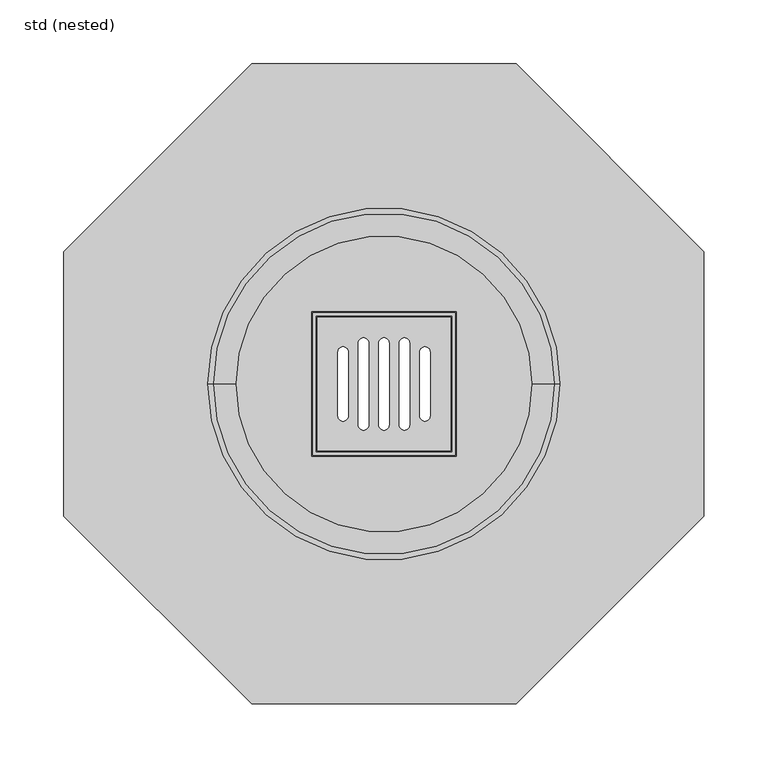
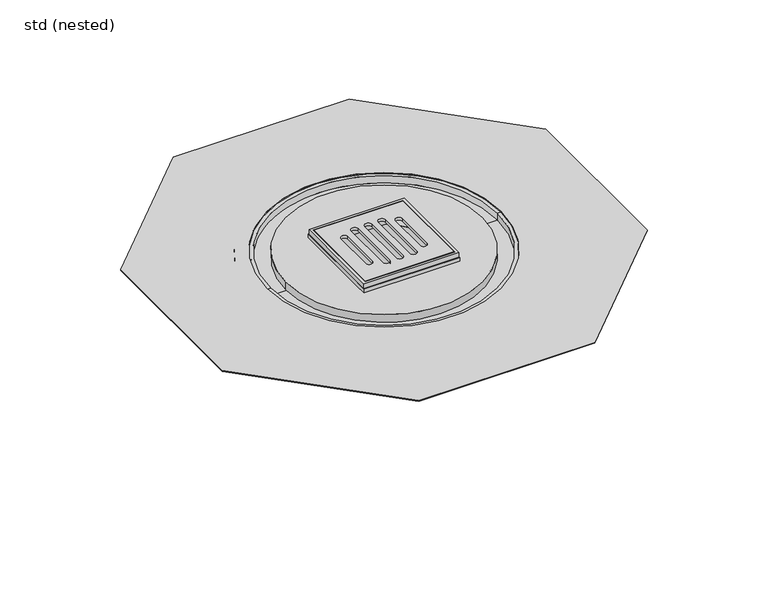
"""IFC4 building model written with IfcOpenShell, lengths in millimetres: sanitary terminal geometry, ZZZ_do_not_use_PF_GEN_UN_composite sealing top section Passavant_ACO : std (nested)."""

from ifc_helpers import new_model, si_unit, point, frame, frame_2d, origin, origin_with_axes, origin_2d, place, context, project, spatial, polyline, circle_curve, trimmed, segment, composite_curve, outline, extrude, faceted_brep, source, transform, mapped, element, save
from ifc_brep_helpers import plane_surface, cylinder_surface, revolved_surface, advanced_brep


def std_nested_0576af5b(model_context):
    return source(origin(), model_context, "Body", "SolidModel", [
        extrude(outline(polyline([(52.0, 52.0), (52.0, -52.0), (-52.0, -52.0), (-52.0, 52.0), (52.0, 52.0)]), holes=[composite_curve([segment(polyline([(-4.0, 32.0), (-4.0, -32.0)]), True, "CONTINUOUS"), segment(trimmed(circle_curve(frame_2d((0.0, -32.0)), 4.0), [point((-4.0, -32.0))], [point((4.0, -32.0))], True, "CARTESIAN"), True, "CONTINUOUS"), segment(polyline([(4.0, -32.0), (4.0, 32.0)]), True, "CONTINUOUS"), segment(trimmed(circle_curve(frame_2d((0.0, 32.0)), 4.0), [point((4.0, 32.0))], [point((-4.0, 32.0))], True, "CARTESIAN"), True, "CONTINUOUS")], self_intersect=False), composite_curve([segment(polyline([(12.0, 32.0), (12.0, -32.0)]), True, "CONTINUOUS"), segment(trimmed(circle_curve(frame_2d((16.0, -32.0)), 4.0), [point((12.0, -32.0))], [point((20.0, -32.0))], True, "CARTESIAN"), True, "CONTINUOUS"), segment(polyline([(20.0, -32.0), (20.0, 32.0)]), True, "CONTINUOUS"), segment(trimmed(circle_curve(frame_2d((16.0, 32.0)), 4.0), [point((20.0, 32.0))], [point((12.0, 32.0))], True, "CARTESIAN"), True, "CONTINUOUS")], self_intersect=False), composite_curve([segment(trimmed(circle_curve(frame_2d((-16.0, 32.0)), 4.0), [point((-12.0, 32.0))], [point((-20.0, 32.0))], True, "CARTESIAN"), True, "CONTINUOUS"), segment(polyline([(-20.0, 32.0), (-20.0, -32.0)]), True, "CONTINUOUS"), segment(trimmed(circle_curve(frame_2d((-16.0, -32.0)), 4.0), [point((-20.0, -32.0))], [point((-12.0, -32.0))], True, "CARTESIAN"), True, "CONTINUOUS"), segment(polyline([(-12.0, -32.0), (-12.0, 32.0)]), True, "CONTINUOUS")], self_intersect=False), composite_curve([segment(trimmed(circle_curve(frame_2d((-32.0, 25.0)), 4.0), [point((-28.0, 25.0))], [point((-36.0, 25.0))], True, "CARTESIAN"), True, "CONTINUOUS"), segment(polyline([(-36.0, 25.0), (-36.0, -25.0)]), True, "CONTINUOUS"), segment(trimmed(circle_curve(frame_2d((-32.0, -25.0)), 4.0), [point((-36.0, -25.0))], [point((-28.0, -25.0))], True, "CARTESIAN"), True, "CONTINUOUS"), segment(polyline([(-28.0, -25.0), (-28.0, 25.0)]), True, "CONTINUOUS")], self_intersect=False), composite_curve([segment(polyline([(28.0, 25.0), (28.0, -25.0)]), True, "CONTINUOUS"), segment(trimmed(circle_curve(frame_2d((32.0, -25.0)), 4.0), [point((28.0, -25.0))], [point((36.0, -25.0))], True, "CARTESIAN"), True, "CONTINUOUS"), segment(polyline([(36.0, -25.0), (36.0, 25.0)]), True, "CONTINUOUS"), segment(trimmed(circle_curve(frame_2d((32.0, 25.0)), 4.0), [point((36.0, 25.0))], [point((28.0, 25.0))], True, "CARTESIAN"), True, "CONTINUOUS")], self_intersect=False)]), frame((0.0, 0.0, 9.0), z_axis=(0.0, 0.0, 1.0), x_axis=(1.0, 0.0, 0.0)), (0.0, 0.0, 1.0), 3.0),
        faceted_brep([(51.95, 51.95, 9.0), (51.95, 51.95, 6.0), (51.95, -51.95, 6.0), (51.95, -51.95, 9.0), (52.75, 52.75, 12.0), (52.75, 52.75, 9.0), (52.75, -52.75, 9.0), (52.75, -52.75, 12.0), (55.75, 55.75, 6.0), (55.75, 55.75, 12.0), (55.75, -55.75, 12.0), (55.75, -55.75, 6.0), (-51.95, -51.95, 6.0), (-51.95, -51.95, 9.0), (-52.75, -52.75, 9.0), (-52.75, -52.75, 12.0), (-55.75, -55.75, 12.0), (-55.75, -55.75, 6.0), (-51.95, 51.95, 6.0), (-51.95, 51.95, 9.0), (-52.75, 52.75, 9.0), (-52.75, 52.75, 12.0), (-55.75, 55.75, 12.0), (-55.75, 55.75, 6.0)], [[[0, 1, 2, 3]], [[4, 5, 6, 7]], [[8, 9, 10, 11]], [[3, 2, 12, 13]], [[7, 6, 14, 15]], [[11, 10, 16, 17]], [[13, 12, 18, 19]], [[15, 14, 20, 21]], [[17, 16, 22, 23]], [[11, 17, 23, 8], [1, 18, 12, 2]], [[19, 18, 1, 0]], [[5, 20, 14, 6], [3, 13, 19, 0]], [[21, 20, 5, 4]], [[9, 22, 16, 10], [7, 15, 21, 4]], [[23, 22, 9, 8]]]),
        extrude(outline(polyline([(-103.5, 250.0), (103.5, 250.0), (250.0, 103.5), (250.0, -103.5), (103.5, -250.0), (-103.5, -250.0), (-250.0, -103.5), (-250.0, 103.5), (-103.5, 250.0)]), holes=[composite_curve([segment(trimmed(circle_curve(origin_2d(), 137.5), [point((-137.5, 0.0))], [point((137.5, 0.0))], True, "CARTESIAN"), True, "CONTINUOUS"), segment(trimmed(circle_curve(origin_2d(), 137.5), [point((137.5, 0.0))], [point((-137.5, 0.0))], True, "CARTESIAN"), True, "CONTINUOUS")], self_intersect=False)]), origin_with_axes(), (0.0, 0.0, 1.0), 1.0),
        advanced_brep(
        [(153.5, 0.0, -3.0), (-153.5, 0.0, -3.0), (-153.5, 0.0, 0.0), (153.5, 0.0, 0.0), (136.5, 0.0, -3.0), (-136.5, 0.0, -3.0), (-133.5, 0.0, 0.0), (133.5, 0.0, 0.0), (136.5, 0.0, -12.0), (-136.5, 0.0, -12.0), (62.5, 0.0, -12.0), (-62.5, 0.0, -12.0), (62.5, 0.0, -130.0), (-62.5, 0.0, -130.0), (59.5, 0.0, -130.0), (-59.5, 0.0, -130.0), (59.5, 0.0, -9.0), (-59.5, 0.0, -9.0), (133.5, 0.0, -9.0), (-133.5, 0.0, -9.0)],
        [
            (0, 1, circle_curve(frame((0.0, 0.0, -3.0), z_axis=(0.0, 0.0, 1.0), x_axis=(-1.0, 0.0, 0.0)), 153.5)),
            (1, 2),
            (2, 3, circle_curve(frame((0.0, 0.0, 0.0), z_axis=(0.0, 0.0, -1.0), x_axis=(-1.0, 0.0, 0.0)), 153.5)),
            (3, 0),
            (1, 0, circle_curve(frame((0.0, 0.0, -3.0), z_axis=(0.0, 0.0, 1.0), x_axis=(-1.0, 0.0, 0.0)), 153.5)),
            (3, 2, circle_curve(frame((0.0, 0.0, 0.0), z_axis=(0.0, 0.0, -1.0), x_axis=(-1.0, 0.0, 0.0)), 153.5)),
            (4, 5, circle_curve(frame((0.0, 0.0, -3.0), z_axis=(0.0, 0.0, 1.0), x_axis=(-1.0, 0.0, 0.0)), 136.5)),
            (5, 1),
            (0, 4),
            (5, 4, circle_curve(frame((0.0, 0.0, -3.0), z_axis=(0.0, 0.0, 1.0), x_axis=(-1.0, 0.0, 0.0)), 136.5)),
            (2, 6),
            (6, 7, circle_curve(frame((0.0, 0.0, 0.0), z_axis=(0.0, 0.0, -1.0), x_axis=(-1.0, 0.0, 0.0)), 133.5)),
            (7, 3),
            (7, 6, circle_curve(frame((0.0, 0.0, 0.0), z_axis=(0.0, 0.0, -1.0), x_axis=(-1.0, 0.0, 0.0)), 133.5)),
            (8, 9, circle_curve(frame((0.0, 0.0, -12.0), z_axis=(0.0, 0.0, 1.0), x_axis=(-1.0, 0.0, 0.0)), 136.5)),
            (9, 5),
            (4, 8),
            (9, 8, circle_curve(frame((0.0, 0.0, -12.0), z_axis=(0.0, 0.0, 1.0), x_axis=(-1.0, 0.0, 0.0)), 136.5)),
            (10, 11, circle_curve(frame((0.0, 0.0, -12.0), z_axis=(0.0, 0.0, 1.0), x_axis=(-1.0, 0.0, 0.0)), 62.5)),
            (11, 9),
            (8, 10),
            (11, 10, circle_curve(frame((0.0, 0.0, -12.0), z_axis=(0.0, 0.0, 1.0), x_axis=(-1.0, 0.0, 0.0)), 62.5)),
            (12, 13, circle_curve(frame((0.0, 0.0, -130.0), z_axis=(0.0, 0.0, 1.0), x_axis=(-1.0, 0.0, 0.0)), 62.5)),
            (13, 11),
            (10, 12),
            (13, 12, circle_curve(frame((0.0, 0.0, -130.0), z_axis=(0.0, 0.0, 1.0), x_axis=(-1.0, 0.0, 0.0)), 62.5)),
            (14, 15, circle_curve(frame((0.0, 0.0, -130.0), z_axis=(0.0, 0.0, 1.0), x_axis=(-1.0, 0.0, 0.0)), 59.5)),
            (15, 13),
            (12, 14),
            (15, 14, circle_curve(frame((0.0, 0.0, -130.0), z_axis=(0.0, 0.0, 1.0), x_axis=(-1.0, 0.0, 0.0)), 59.5)),
            (16, 17, circle_curve(frame((0.0, 0.0, -9.0), z_axis=(0.0, 0.0, 1.0), x_axis=(-1.0, 0.0, 0.0)), 59.5)),
            (17, 15),
            (14, 16),
            (17, 16, circle_curve(frame((0.0, 0.0, -9.0), z_axis=(0.0, 0.0, 1.0), x_axis=(-1.0, 0.0, 0.0)), 59.5)),
            (18, 19, circle_curve(frame((0.0, 0.0, -9.0), z_axis=(0.0, 0.0, 1.0), x_axis=(-1.0, 0.0, 0.0)), 133.5)),
            (19, 17),
            (16, 18),
            (19, 18, circle_curve(frame((0.0, 0.0, -9.0), z_axis=(0.0, 0.0, 1.0), x_axis=(-1.0, 0.0, 0.0)), 133.5)),
            (6, 19),
            (18, 7),
        ],
        [
            cylinder_surface(frame((0.0, 0.0, 36.0), z_axis=(0.0, 0.0, -1.0), x_axis=(-1.0, 0.0, 0.0)), 153.5),
            plane_surface(frame((0.0, 0.0, -3.0), z_axis=(0.0, 0.0, -1.0), x_axis=(-1.0, 0.0, 0.0))),
            plane_surface(frame((0.0, 0.0, 0.0), z_axis=(0.0, 0.0, 1.0), x_axis=(-1.0, 0.0, 0.0))),
            cylinder_surface(frame((0.0, 0.0, 36.0), z_axis=(0.0, 0.0, -1.0), x_axis=(-1.0, 0.0, 0.0)), 136.5),
            plane_surface(frame((0.0, 0.0, -12.0), z_axis=(0.0, 0.0, -1.0), x_axis=(-1.0, 0.0, 0.0))),
            cylinder_surface(frame((0.0, 0.0, 36.0), z_axis=(0.0, 0.0, -1.0), x_axis=(-1.0, 0.0, 0.0)), 62.5),
            plane_surface(frame((0.0, 0.0, -130.0), z_axis=(0.0, 0.0, -1.0), x_axis=(-1.0, 0.0, 0.0))),
            revolved_surface(polyline([(-59.5, 0.0, -130.0), (-59.5, 0.0, -9.0)]), (0.0, 0.0, 36.0), (0.0, 0.0, -1.0)),
            plane_surface(frame((0.0, 0.0, -9.0), z_axis=(0.0, 0.0, 1.0), x_axis=(-1.0, 0.0, 0.0))),
            revolved_surface(polyline([(-133.5, 0.0, -9.0), (-133.5, 0.0, 0.0)]), (0.0, 0.0, 36.0), (0.0, 0.0, -1.0)),
        ],
        [
            (0, [[1, 2, 3, 4]]),
            (0, [[5, -4, 6, -2]]),
            (1, [[7, 8, -1, 9]]),
            (1, [[10, -9, -5, -8]]),
            (2, [[-3, 11, 12, 13]]),
            (2, [[-6, -13, 14, -11]]),
            (3, [[15, 16, -7, 17]]),
            (3, [[18, -17, -10, -16]]),
            (4, [[19, 20, -15, 21]]),
            (4, [[22, -21, -18, -20]]),
            (5, [[23, 24, -19, 25]]),
            (5, [[26, -25, -22, -24]]),
            (6, [[27, 28, -23, 29]]),
            (6, [[30, -29, -26, -28]]),
            (7, [[31, 32, -27, 33]]),
            (7, [[34, -33, -30, -32]]),
            (8, [[35, 36, -31, 37]]),
            (8, [[38, -37, -34, -36]]),
            (9, [[-12, 39, -35, 40]]),
            (9, [[-14, -40, -38, -39]]),
        ],
    ),
        extrude(outline(composite_curve([segment(trimmed(circle_curve(origin_2d(), 115.5), [point((-115.5, 0.0))], [point((115.5, 0.0))], False, "CARTESIAN"), True, "CONTINUOUS"), segment(trimmed(circle_curve(origin_2d(), 115.5), [point((115.5, 0.0))], [point((-115.5, 0.0))], False, "CARTESIAN"), True, "CONTINUOUS")], self_intersect=False), holes=[polyline([(50.5, 50.5), (-50.5, 50.5), (-50.5, -50.5), (50.5, -50.5), (50.5, 50.5)])]), frame((0.0, 0.0, -8.5), z_axis=(0.0, 0.0, 1.0), x_axis=(1.0, 0.0, 0.0)), (0.0, 0.0, 1.0), 9.5),
        extrude(outline(polyline([(56.5, 56.5), (56.5, -56.5), (-56.5, -56.5), (-56.5, 56.5), (56.5, 56.5)]), holes=[polyline([(50.5, 50.5), (-50.5, 50.5), (-50.5, -50.5), (50.5, -50.5), (50.5, 50.5)])]), frame((0.0, 0.0, 1.0), z_axis=(0.0, 0.0, 1.0), x_axis=(1.0, 0.0, 0.0)), (0.0, 0.0, 1.0), 5.0),
    ])


if __name__ == "__main__":
    model = new_model("IFC4")
    model_context = context("Model", 3, world=origin())
    ifc_project = project(units=[si_unit("LENGTHUNIT", "METRE", prefix="MILLI")], contexts=[model_context])
    site = spatial("IfcSite", under=ifc_project)
    building = spatial("IfcBuilding", under=site)
    placement = place(None, origin())
    std_nested_shape = std_nested_0576af5b(model_context)
    element("IfcSanitaryTerminal", 1, ObjectType="ZZZ_do_not_use_PF_GEN_UN_composite sealing top section Passavant_ACO : std (nested)", at=placement, inside=building, context=model_context, shape_type="MappedRepresentation", body=[
        mapped(std_nested_shape, transform((0.0, 0.0, 0.0), x_axis=(1.0, 0.0, 0.0), y_axis=(0.0, 1.0, 0.0), z_axis=(0.0, 0.0, 1.0))),
    ])
    save(model, "model.ifc")
